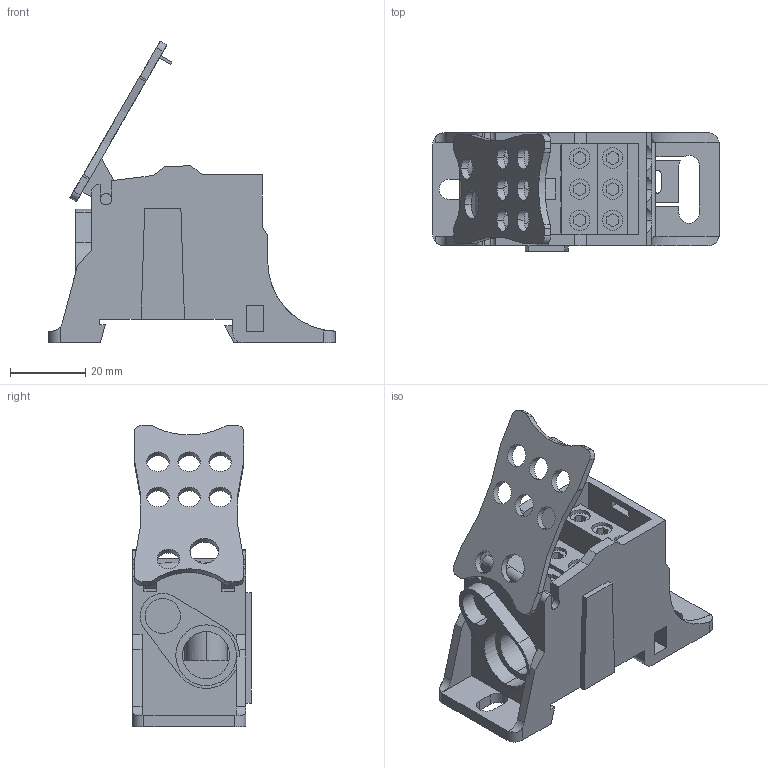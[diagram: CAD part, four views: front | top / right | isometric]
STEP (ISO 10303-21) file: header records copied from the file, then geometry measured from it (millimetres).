
FILE_DESCRIPTION (( 'STEP AP203' ), '1' );
FILE_NAME ('plc-kbr160 Áëîê ÊÁÐ íà DIN-ðåéêó è ìîíòàæíóþ ïàíåëü 160A.STEP', '2017-04-03T06:34:24', ( 'kuryshev' ), ( '' ), 'SwSTEP 2.0', 'SolidWorks 2010', '' );
FILE_SCHEMA (( 'CONFIG_CONTROL_DESIGN' ));
Length unit declared in the file: millimetre
Products named in the file (1): plc-kbr160 Áëîê ÊÁÐ íà DIN-ðåéêó è ìîíòàæíóþ ïàíåëü 160A
Bounding box: 76 x 31.5 x 80.02 mm (x, y, z)
Volume: 40743.6 mm3; surface area: 23753.3 mm2
Topology: 2 solids, 2 shells, 364 faces, 1013 edges, 670 vertices
Faces by surface type: plane 234, cylinder 128, torus 2
Entity records: 12361 total; most frequent: CARTESIAN_POINT 2672, ORIENTED_EDGE 2026, DIRECTION 1979, EDGE_CURVE 1013, LINE 709, VECTOR 709, VERTEX_POINT 670, AXIS2_PLACEMENT_3D 635
